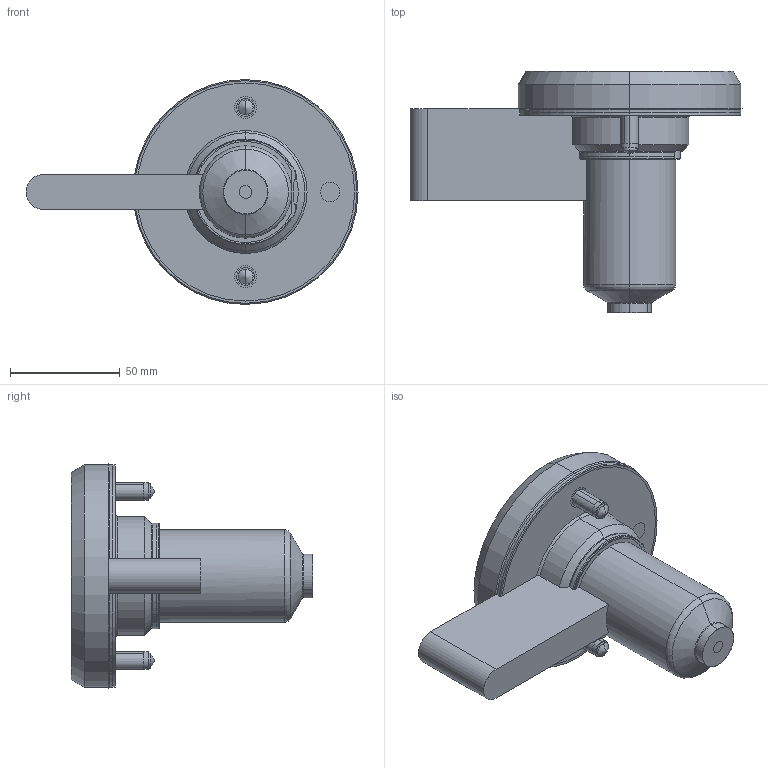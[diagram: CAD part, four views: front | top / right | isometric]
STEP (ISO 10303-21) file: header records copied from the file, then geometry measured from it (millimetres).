
FILE_DESCRIPTION (( 'STEP AP214' ), '1' );
FILE_NAME ('SOHSB16070-SOSRT1601.STEP', '2024-11-28T08:51:43', ( '' ), ( '' ), 'SwSTEP 2.0', 'SolidWorks 2022', '' );
FILE_SCHEMA (( 'AUTOMOTIVE_DESIGN' ));
Length unit declared in the file: millimetre
Products named in the file (9): SOHSB16070-SOSRT1601; EcoONE-HSB16-Open Gate Cut-out Details_Sprue Gate or Full Body Gate; EcoONE-HSB16-Open Gate Sprue Tip_SOSRT1601; socket head cap screw_iso_ISO 4762 M8 x 25 - 25N; EcoONE-HSB16-16003(A)_SOHSBNB16070; EcoONE-HSB16-00002(A)_SOHSBLR16; EcoONE-HSB16-16005_SOTC10350-J; EcoONE-HSB16-16006_SONHC16; EcoONE-HSB16-16004_SONH28062
Assembly tree (10 placements, depth 2):
  SOHSB16070-SOSRT1601
    EcoONE-HSB16-16003(A)_SOHSBNB16070
    EcoONE-HSB16-16004_SONH28062
    EcoONE-HSB16-16005_SOTC10350-J
    EcoONE-HSB16-16006_SONHC16  x2
    EcoONE-HSB16-00002(A)_SOHSBLR16
    socket head cap screw_iso_ISO 4762 M8 x 25 - 25N  x2
    EcoONE-HSB16-Open Gate Sprue Tip_SOSRT1601
    EcoONE-HSB16-Open Gate Cut-out Details_Sprue Gate or Full Body Gate
Bounding box: 151.2 x 110 x 102.4 mm (x, y, z)
Volume: 397920.4 mm3; surface area: 101498.1 mm2
Topology: 10 solids, 10 shells, 504 faces, 1264 edges, 793 vertices
Faces by surface type: cylinder 156, plane 134, bspline 99, cone 81, torus 26, sphere 8
Entity records: 29046 total; most frequent: CARTESIAN_POINT 17859, ORIENTED_EDGE 2308, DIRECTION 1943, EDGE_CURVE 1154, AXIS2_PLACEMENT_3D 783, VERTEX_POINT 732, EDGE_LOOP 500, ADVANCED_FACE 461
